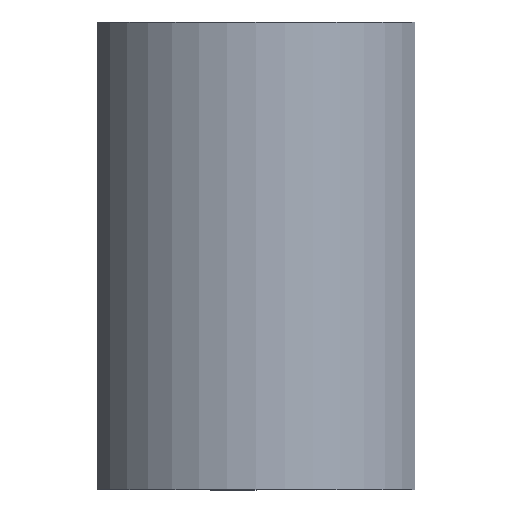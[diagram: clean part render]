
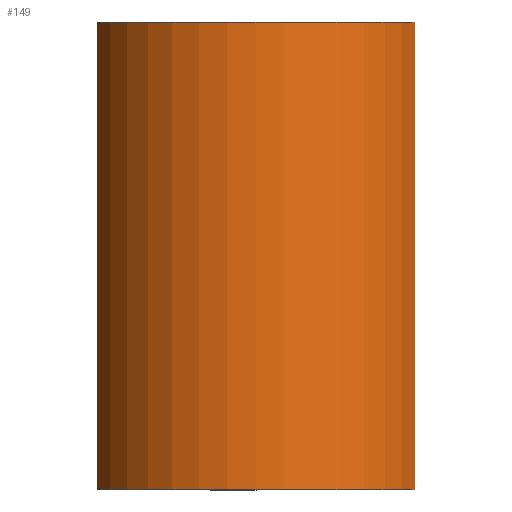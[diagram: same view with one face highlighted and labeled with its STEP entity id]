
A CAD part, top view. The second image highlights one B-rep face of the part: STEP entity #149.
In plain terms, the highlighted cylindrical face has radius 20 mm (diameter 40 mm), a partial arc.
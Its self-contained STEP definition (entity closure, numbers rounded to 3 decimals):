
#14=CIRCLE('',#181,20.);
#15=CIRCLE('',#182,20.);
#16=CYLINDRICAL_SURFACE('',#180,20.);
#19=FACE_OUTER_BOUND('',#27,.T.);
#27=EDGE_LOOP('',(#103,#104,#105,#106));
#39=LINE('',#241,#55);
#40=LINE('',#247,#56);
#55=VECTOR('',#200,10.);
#56=VECTOR('',#207,10.);
#69=VERTEX_POINT('',#237);
#70=VERTEX_POINT('',#239);
#71=VERTEX_POINT('',#243);
#72=VERTEX_POINT('',#245);
#83=EDGE_CURVE('',#69,#70,#39,.T.);
#84=EDGE_CURVE('',#71,#69,#14,.T.);
#85=EDGE_CURVE('',#72,#70,#15,.T.);
#86=EDGE_CURVE('',#71,#72,#40,.T.);
#103=ORIENTED_EDGE('',*,*,#84,.T.);
#104=ORIENTED_EDGE('',*,*,#83,.T.);
#105=ORIENTED_EDGE('',*,*,#85,.F.);
#106=ORIENTED_EDGE('',*,*,#86,.F.);
#149=ADVANCED_FACE('',(#19),#16,.T.);
#180=AXIS2_PLACEMENT_3D('',#242,#201,#202);
#181=AXIS2_PLACEMENT_3D('',#244,#203,#204);
#182=AXIS2_PLACEMENT_3D('',#246,#205,#206);
#200=DIRECTION('',(0.,1.,0.));
#201=DIRECTION('center_axis',(0.,1.,0.));
#202=DIRECTION('ref_axis',(-1.,0.,0.));
#203=DIRECTION('center_axis',(0.,1.,0.));
#204=DIRECTION('ref_axis',(-1.,0.,0.));
#205=DIRECTION('center_axis',(0.,1.,0.));
#206=DIRECTION('ref_axis',(-1.,0.,0.));
#207=DIRECTION('',(0.,1.,0.));
#237=CARTESIAN_POINT('',(18.688,0.,7.126));
#239=CARTESIAN_POINT('',(18.688,55.,7.126));
#241=CARTESIAN_POINT('',(18.688,0.,7.126));
#242=CARTESIAN_POINT('Origin',(0.,0.,0.));
#243=CARTESIAN_POINT('',(-18.688,0.,7.126));
#244=CARTESIAN_POINT('Origin',(0.,0.,0.));
#245=CARTESIAN_POINT('',(-18.688,55.,7.126));
#246=CARTESIAN_POINT('Origin',(0.,55.,0.));
#247=CARTESIAN_POINT('',(-18.688,0.,7.126));
